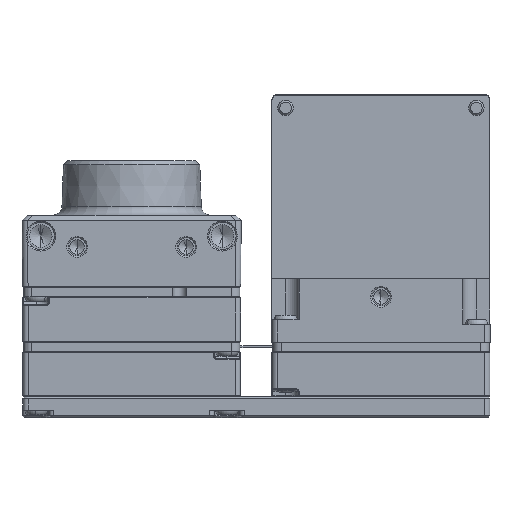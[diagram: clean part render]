
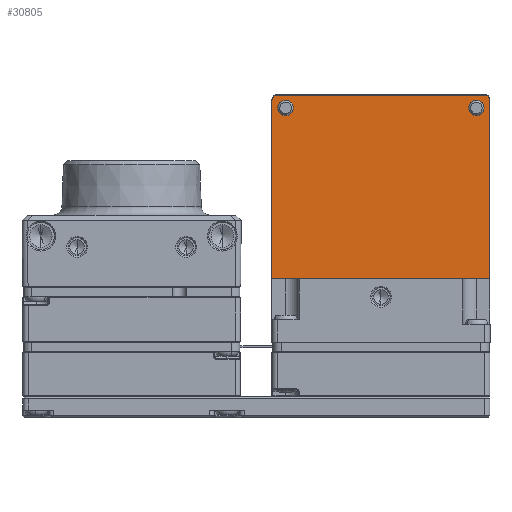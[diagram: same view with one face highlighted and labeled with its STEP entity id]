
A CAD part, front view. The second image highlights one B-rep face of the part: STEP entity #30805.
In plain terms, the highlighted planar face has unit normal (0, -1, 0).
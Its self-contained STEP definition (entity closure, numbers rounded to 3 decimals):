
#1157 = EDGE_LOOP ( 'NONE', ( #97146, #32906 ) ) ;
#2666 = VECTOR ( 'NONE', #144480, 1000. ) ;
#5343 = CARTESIAN_POINT ( 'NONE',  ( 16.95, 6.5, 19.8 ) ) ;
#7070 = CARTESIAN_POINT ( 'NONE',  ( 16.95, 6.5, 19.8 ) ) ;
#8743 = CARTESIAN_POINT ( 'NONE',  ( 39.45, 6.5, 20.6 ) ) ;
#8923 = VERTEX_POINT ( 'NONE', #121453 ) ;
#9965 = CARTESIAN_POINT ( 'NONE',  ( 39.45, 6.5, 21.2 ) ) ;
#10250 = CARTESIAN_POINT ( 'NONE',  ( 16.95, 6.5, 20.65 ) ) ;
#11392 = DIRECTION ( 'NONE',  ( 0., -1., 0. ) ) ;
#13006 = DIRECTION ( 'NONE',  ( 0., 0., 1. ) ) ;
#14789 = EDGE_CURVE ( 'NONE', #121407, #105819, #82249, .T. ) ;
#18371 = DIRECTION ( 'NONE',  ( 0., 0., 1. ) ) ;
#20625 = CARTESIAN_POINT ( 'NONE',  ( 39.45, 6.5, 1. ) ) ;
#21171 = EDGE_CURVE ( 'NONE', #123001, #112038, #53054, .T. ) ;
#21654 = DIRECTION ( 'NONE',  ( 0., 0., 1. ) ) ;
#22789 = VECTOR ( 'NONE', #56322, 1000. ) ;
#23588 = CARTESIAN_POINT ( 'NONE',  ( 27.45, 6.5, -2.5 ) ) ;
#25229 = AXIS2_PLACEMENT_3D ( 'NONE', #7070, #45213, #21654 ) ;
#25290 = ORIENTED_EDGE ( 'NONE', *, *, #38130, .F. ) ;
#26575 = ORIENTED_EDGE ( 'NONE', *, *, #157565, .F. ) ;
#29586 = CARTESIAN_POINT ( 'NONE',  ( 16.05, 6.5, 20.6 ) ) ;
#30805 = ADVANCED_FACE ( 'NONE', ( #108840, #73934, #47155 ), #34979, .T. ) ;
#32906 = ORIENTED_EDGE ( 'NONE', *, *, #146930, .F. ) ;
#34979 = PLANE ( 'NONE',  #136811 ) ;
#38130 = EDGE_CURVE ( 'NONE', #48524, #99880, #130512, .T. ) ;
#38945 = CARTESIAN_POINT ( 'NONE',  ( 37.95, 6.5, 19.8 ) ) ;
#45213 = DIRECTION ( 'NONE',  ( 0., -1., 0. ) ) ;
#46735 = DIRECTION ( 'NONE',  ( 0., -1., 0. ) ) ;
#47155 = FACE_OUTER_BOUND ( 'NONE', #48987, .T. ) ;
#47258 = EDGE_CURVE ( 'NONE', #147244, #149109, #132583, .T. ) ;
#47472 = ORIENTED_EDGE ( 'NONE', *, *, #47258, .F. ) ;
#48524 = VERTEX_POINT ( 'NONE', #114585 ) ;
#48987 = EDGE_LOOP ( 'NONE', ( #47472, #140626, #26575, #154217, #56226, #154586 ) ) ;
#51792 = CARTESIAN_POINT ( 'NONE',  ( 37.95, 6.5, 19.8 ) ) ;
#53054 = LINE ( 'NONE', #152119, #141032 ) ;
#55946 = ORIENTED_EDGE ( 'NONE', *, *, #91611, .F. ) ;
#56226 = ORIENTED_EDGE ( 'NONE', *, *, #122946, .F. ) ;
#56322 = DIRECTION ( 'NONE',  ( 1., 0., 0. ) ) ;
#57630 = AXIS2_PLACEMENT_3D ( 'NONE', #38945, #136413, #137201 ) ;
#62793 = AXIS2_PLACEMENT_3D ( 'NONE', #5343, #103592, #18371 ) ;
#65221 = DIRECTION ( 'NONE',  ( 1., 0., 0. ) ) ;
#69707 = CARTESIAN_POINT ( 'NONE',  ( 38.85, 6.5, 21.2 ) ) ;
#73816 = CARTESIAN_POINT ( 'NONE',  ( 37.95, 6.5, 20.65 ) ) ;
#73934 = FACE_BOUND ( 'NONE', #1157, .T. ) ;
#81887 = AXIS2_PLACEMENT_3D ( 'NONE', #157969, #46735, #84057 ) ;
#81998 = LINE ( 'NONE', #107119, #2666 ) ;
#82249 = CIRCLE ( 'NONE', #25229, 0.85 ) ;
#84057 = DIRECTION ( 'NONE',  ( 0., 0., 1. ) ) ;
#88623 = EDGE_CURVE ( 'NONE', #147244, #8923, #136266, .T. ) ;
#91611 = EDGE_CURVE ( 'NONE', #99880, #48524, #147748, .T. ) ;
#92487 = VERTEX_POINT ( 'NONE', #8743 ) ;
#97146 = ORIENTED_EDGE ( 'NONE', *, *, #14789, .F. ) ;
#99880 = VERTEX_POINT ( 'NONE', #73816 ) ;
#100211 = CARTESIAN_POINT ( 'NONE',  ( 16.95, 6.5, 18.95 ) ) ;
#100491 = DIRECTION ( 'NONE',  ( 0., 0., 1. ) ) ;
#103592 = DIRECTION ( 'NONE',  ( 0., -1., 0. ) ) ;
#104298 = EDGE_CURVE ( 'NONE', #92487, #149109, #131144, .T. ) ;
#105819 = VERTEX_POINT ( 'NONE', #10250 ) ;
#107119 = CARTESIAN_POINT ( 'NONE',  ( 15.45, 6.5, -2.8 ) ) ;
#108640 = CARTESIAN_POINT ( 'NONE',  ( 39.45, 6.5, -2.8 ) ) ;
#108840 = FACE_BOUND ( 'NONE', #138573, .T. ) ;
#111849 = DIRECTION ( 'NONE',  ( 0., -1., 0. ) ) ;
#112038 = VERTEX_POINT ( 'NONE', #20625 ) ;
#114585 = CARTESIAN_POINT ( 'NONE',  ( 37.95, 6.5, 18.95 ) ) ;
#119216 = LINE ( 'NONE', #108640, #121108 ) ;
#121108 = VECTOR ( 'NONE', #121610, 1000. ) ;
#121407 = VERTEX_POINT ( 'NONE', #100211 ) ;
#121453 = CARTESIAN_POINT ( 'NONE',  ( 15.45, 6.5, 20.6 ) ) ;
#121610 = DIRECTION ( 'NONE',  ( 0., 0., -1. ) ) ;
#122946 = EDGE_CURVE ( 'NONE', #92487, #112038, #119216, .T. ) ;
#123001 = VERTEX_POINT ( 'NONE', #124799 ) ;
#124799 = CARTESIAN_POINT ( 'NONE',  ( 15.45, 6.5, 1. ) ) ;
#128623 = DIRECTION ( 'NONE',  ( 0., -1., 0. ) ) ;
#130512 = CIRCLE ( 'NONE', #57630, 0.85 ) ;
#131144 = CIRCLE ( 'NONE', #81887, 0.6 ) ;
#132583 = LINE ( 'NONE', #9965, #22789 ) ;
#136266 = CIRCLE ( 'NONE', #157031, 0.6 ) ;
#136413 = DIRECTION ( 'NONE',  ( 0., -1., 0. ) ) ;
#136811 = AXIS2_PLACEMENT_3D ( 'NONE', #23588, #11392, #13006 ) ;
#137201 = DIRECTION ( 'NONE',  ( 0., 0., 1. ) ) ;
#138573 = EDGE_LOOP ( 'NONE', ( #25290, #55946 ) ) ;
#140626 = ORIENTED_EDGE ( 'NONE', *, *, #88623, .T. ) ;
#141032 = VECTOR ( 'NONE', #65221, 1000. ) ;
#143107 = CIRCLE ( 'NONE', #62793, 0.85 ) ;
#144480 = DIRECTION ( 'NONE',  ( 0., 0., 1. ) ) ;
#146930 = EDGE_CURVE ( 'NONE', #105819, #121407, #143107, .T. ) ;
#147244 = VERTEX_POINT ( 'NONE', #156225 ) ;
#147748 = CIRCLE ( 'NONE', #152990, 0.85 ) ;
#149109 = VERTEX_POINT ( 'NONE', #69707 ) ;
#150588 = DIRECTION ( 'NONE',  ( 0., 0., 1. ) ) ;
#152119 = CARTESIAN_POINT ( 'NONE',  ( 27.45, 6.5, 1. ) ) ;
#152990 = AXIS2_PLACEMENT_3D ( 'NONE', #51792, #111849, #100491 ) ;
#154217 = ORIENTED_EDGE ( 'NONE', *, *, #21171, .T. ) ;
#154586 = ORIENTED_EDGE ( 'NONE', *, *, #104298, .T. ) ;
#156225 = CARTESIAN_POINT ( 'NONE',  ( 16.05, 6.5, 21.2 ) ) ;
#157031 = AXIS2_PLACEMENT_3D ( 'NONE', #29586, #128623, #150588 ) ;
#157565 = EDGE_CURVE ( 'NONE', #123001, #8923, #81998, .T. ) ;
#157969 = CARTESIAN_POINT ( 'NONE',  ( 38.85, 6.5, 20.6 ) ) ;
